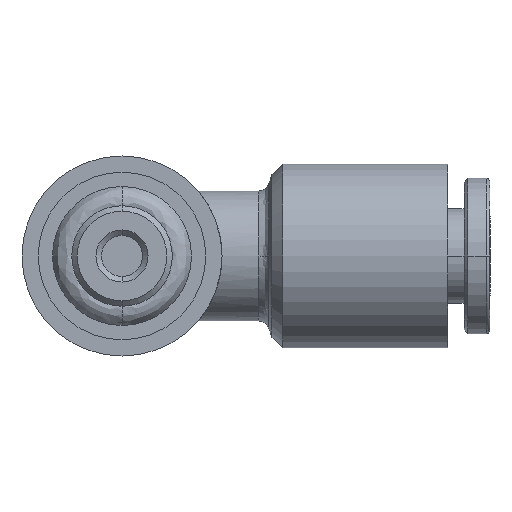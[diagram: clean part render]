
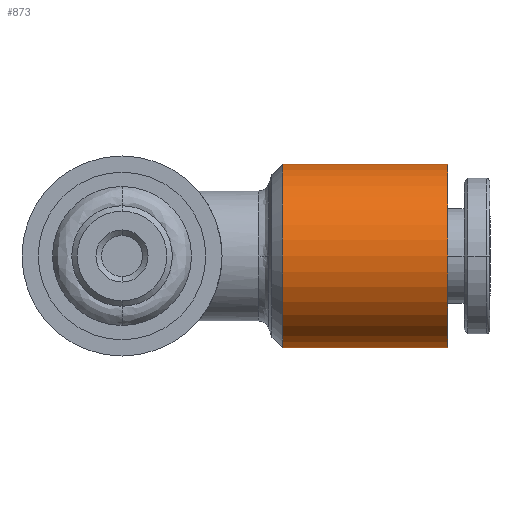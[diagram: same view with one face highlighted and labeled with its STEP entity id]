
A CAD part, front view. The second image highlights one B-rep face of the part: STEP entity #873.
In plain terms, the highlighted cylindrical face has radius 4.25 mm (diameter 8.5 mm), a partial arc.
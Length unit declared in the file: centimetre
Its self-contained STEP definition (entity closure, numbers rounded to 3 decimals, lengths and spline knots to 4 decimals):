
#49 = AXIS2_PLACEMENT_3D ( 'NONE', #3450, #3449, #3448 ) ;
#103 = AXIS2_PLACEMENT_3D ( 'NONE', #3012, #3013, #3014 ) ;
#215 = ORIENTED_EDGE ( 'NONE', *, *, #3341, .T. ) ;
#219 = VERTEX_POINT ( 'NONE', #479 ) ;
#224 = VERTEX_POINT ( 'NONE', #471 ) ;
#229 = VERTEX_POINT ( 'NONE', #462 ) ;
#230 = VERTEX_POINT ( 'NONE', #463 ) ;
#308 = ORIENTED_EDGE ( 'NONE', *, *, #2281, .T. ) ;
#310 = ORIENTED_EDGE ( 'NONE', *, *, #3307, .F. ) ;
#362 = ORIENTED_EDGE ( 'NONE', *, *, #2378, .F. ) ;
#462 = CARTESIAN_POINT ( 'NONE',  ( 0.7433, 1.075, 0.425 ) ) ;
#463 = CARTESIAN_POINT ( 'NONE',  ( 1.5058, 1.075, 0.425 ) ) ;
#471 = CARTESIAN_POINT ( 'NONE',  ( 0.7433, 1.075, -0.425 ) ) ;
#479 = CARTESIAN_POINT ( 'NONE',  ( 1.5058, 1.075, -0.425 ) ) ;
#873 = ADVANCED_FACE ( 'NONE', ( #2117 ), #2121, .T. ) ;
#1222 = EDGE_LOOP ( 'NONE', ( #310, #308, #215, #362 ) ) ;
#1625 = CARTESIAN_POINT ( 'NONE',  ( 1.1245, 1.075, 0. ) ) ;
#1626 = DIRECTION ( 'NONE',  ( -1., 0., 0. ) ) ;
#1629 = DIRECTION ( 'NONE',  ( 0., 0., 1. ) ) ;
#2117 = FACE_OUTER_BOUND ( 'NONE', #1222, .T. ) ;
#2121 = CYLINDRICAL_SURFACE ( 'NONE', #3804, 0.425 ) ;
#2281 = EDGE_CURVE ( 'NONE', #219, #230, #3362, .T. ) ;
#2378 = EDGE_CURVE ( 'NONE', #224, #229, #3550, .T. ) ;
#3012 = CARTESIAN_POINT ( 'NONE',  ( 0.7433, 1.075, 0. ) ) ;
#3013 = DIRECTION ( 'NONE',  ( -1., 0., 0. ) ) ;
#3014 = DIRECTION ( 'NONE',  ( 0., 0., -1. ) ) ;
#3089 = CARTESIAN_POINT ( 'NONE',  ( 1.1245, 1.075, -0.425 ) ) ;
#3091 = DIRECTION ( 'NONE',  ( -1., 0., 0. ) ) ;
#3164 = CARTESIAN_POINT ( 'NONE',  ( 1.1245, 1.075, 0.425 ) ) ;
#3165 = DIRECTION ( 'NONE',  ( -1., 0., 0. ) ) ;
#3307 = EDGE_CURVE ( 'NONE', #219, #224, #3591, .T. ) ;
#3341 = EDGE_CURVE ( 'NONE', #230, #229, #3644, .T. ) ;
#3362 = CIRCLE ( 'NONE', #49, 0.425 ) ;
#3448 = DIRECTION ( 'NONE',  ( 0., 0., 1. ) ) ;
#3449 = DIRECTION ( 'NONE',  ( -1., 0., 0. ) ) ;
#3450 = CARTESIAN_POINT ( 'NONE',  ( 1.5058, 1.075, 0. ) ) ;
#3550 = CIRCLE ( 'NONE', #103, 0.425 ) ;
#3591 = LINE ( 'NONE', #3089, #3594 ) ;
#3594 = VECTOR ( 'NONE', #3091, 100. ) ;
#3644 = LINE ( 'NONE', #3164, #3646 ) ;
#3646 = VECTOR ( 'NONE', #3165, 100. ) ;
#3804 = AXIS2_PLACEMENT_3D ( 'NONE', #1625, #1626, #1629 ) ;
